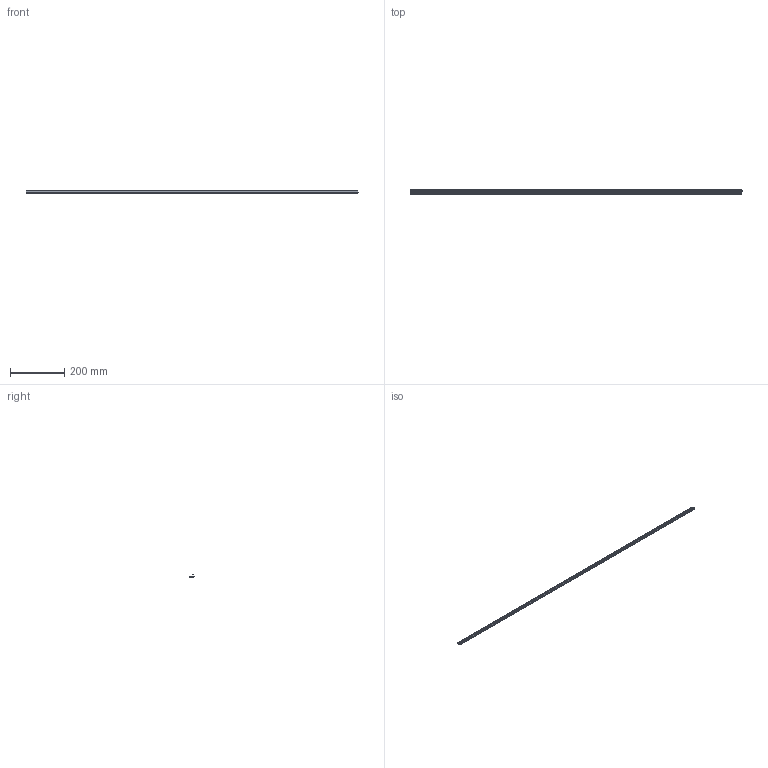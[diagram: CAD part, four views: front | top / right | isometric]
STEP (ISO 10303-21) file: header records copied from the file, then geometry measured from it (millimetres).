
FILE_DESCRIPTION((''),'2;1');
FILE_NAME('GTB09A08','2017-02-15T',('jenni.wallner'),(''),'PRO/ENGINEER BY PARAMETRIC TECHNOLOGY CORPORATION, 2012420','PRO/ENGINEER BY PARAMETRIC TECHNOLOGY CORPORATION, 2012420','');
FILE_SCHEMA(('CONFIG_CONTROL_DESIGN'));
Length unit declared in the file: inch
Products named in the file (1): GTB09A08
Bounding box: 1219.2 x 14.73 x 8.38 mm (x, y, z)
Volume: 65750 mm3; surface area: 56765 mm2
Topology: 1 solids, 1 shells, 28 faces, 78 edges, 52 vertices
Faces by surface type: plane 16, cylinder 12
Entity records: 958 total; most frequent: CARTESIAN_POINT 206, ORIENTED_EDGE 156, DIRECTION 134, EDGE_CURVE 78, VECTOR 54, LINE 54, VERTEX_POINT 52, AXIS2_PLACEMENT_3D 40
